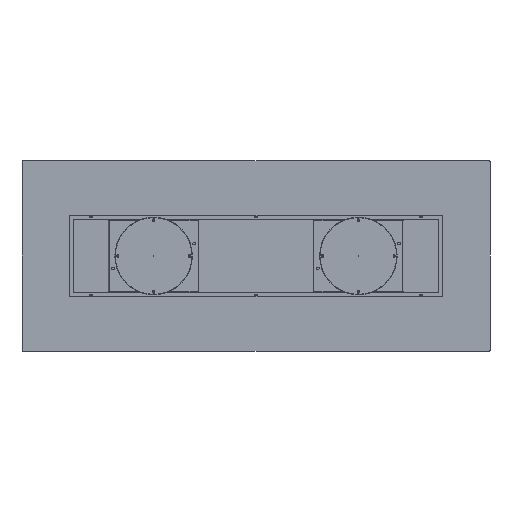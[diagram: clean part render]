
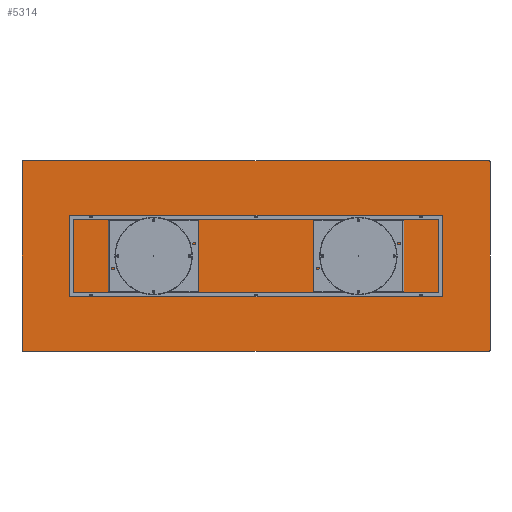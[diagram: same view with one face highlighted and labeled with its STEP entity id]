
A CAD part, front view. The second image highlights one B-rep face of the part: STEP entity #5314.
In plain terms, the highlighted planar face has unit normal (0, -1, 0).
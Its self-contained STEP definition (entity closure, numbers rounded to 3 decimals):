
#19 = CIRCLE ( 'NONE', #8386, 5. ) ;
#112 = CARTESIAN_POINT ( 'NONE',  ( 1600., 0., -650. ) ) ;
#193 = DIRECTION ( 'NONE',  ( 0., -1., 0. ) ) ;
#340 = CARTESIAN_POINT ( 'NONE',  ( 1595., 0., -645. ) ) ;
#605 = LINE ( 'NONE', #12054, #3427 ) ;
#1014 = CARTESIAN_POINT ( 'NONE',  ( -1595., 0., -645. ) ) ;
#1171 = FACE_OUTER_BOUND ( 'NONE', #8142, .T. ) ;
#1242 = DIRECTION ( 'NONE',  ( 0., 0., 1. ) ) ;
#1369 = VECTOR ( 'NONE', #8531, 1000. ) ;
#1533 = VERTEX_POINT ( 'NONE', #2548 ) ;
#1594 = ORIENTED_EDGE ( 'NONE', *, *, #5032, .F. ) ;
#1791 = ORIENTED_EDGE ( 'NONE', *, *, #13381, .F. ) ;
#2022 = AXIS2_PLACEMENT_3D ( 'NONE', #8572, #12759, #3325 ) ;
#2375 = CARTESIAN_POINT ( 'NONE',  ( -1600., 0., 650. ) ) ;
#2510 = DIRECTION ( 'NONE',  ( 1., 0., 0. ) ) ;
#2548 = CARTESIAN_POINT ( 'NONE',  ( 1600., 0., 645. ) ) ;
#2654 = CARTESIAN_POINT ( 'NONE',  ( -1600., 0., -645. ) ) ;
#2995 = DIRECTION ( 'NONE',  ( 0., 0., 1. ) ) ;
#3217 = VERTEX_POINT ( 'NONE', #8541 ) ;
#3252 = PLANE ( 'NONE',  #4830 ) ;
#3325 = DIRECTION ( 'NONE',  ( 0., 0., 1. ) ) ;
#3427 = VECTOR ( 'NONE', #5013, 1000. ) ;
#3534 = CARTESIAN_POINT ( 'NONE',  ( 1595., 0., 650. ) ) ;
#3807 = EDGE_CURVE ( 'NONE', #3217, #12684, #9839, .T. ) ;
#4146 = CARTESIAN_POINT ( 'NONE',  ( 1595., 0., -650. ) ) ;
#4570 = VERTEX_POINT ( 'NONE', #4146 ) ;
#4830 = AXIS2_PLACEMENT_3D ( 'NONE', #7456, #6224, #1242 ) ;
#4854 = CARTESIAN_POINT ( 'NONE',  ( 1600., 0., -645. ) ) ;
#5013 = DIRECTION ( 'NONE',  ( -1., 0., 0. ) ) ;
#5032 = EDGE_CURVE ( 'NONE', #11584, #5899, #10582, .T. ) ;
#5206 = AXIS2_PLACEMENT_3D ( 'NONE', #340, #6685, #5418 ) ;
#5314 = ADVANCED_FACE ( 'NONE', ( #1171 ), #3252, .F. ) ;
#5418 = DIRECTION ( 'NONE',  ( 0., 0., 1. ) ) ;
#5793 = DIRECTION ( 'NONE',  ( 0., -1., 0. ) ) ;
#5822 = CIRCLE ( 'NONE', #5206, 5. ) ;
#5899 = VERTEX_POINT ( 'NONE', #13032 ) ;
#5991 = CARTESIAN_POINT ( 'NONE',  ( -1595., 0., 645. ) ) ;
#6017 = ORIENTED_EDGE ( 'NONE', *, *, #8251, .F. ) ;
#6224 = DIRECTION ( 'NONE',  ( 0., 1., 0. ) ) ;
#6455 = LINE ( 'NONE', #112, #1369 ) ;
#6465 = EDGE_CURVE ( 'NONE', #3217, #5899, #7372, .T. ) ;
#6580 = VERTEX_POINT ( 'NONE', #8900 ) ;
#6685 = DIRECTION ( 'NONE',  ( 0., -1., 0. ) ) ;
#6976 = VECTOR ( 'NONE', #2510, 1000. ) ;
#7372 = CIRCLE ( 'NONE', #9137, 5. ) ;
#7456 = CARTESIAN_POINT ( 'NONE',  ( 0., 0., 0. ) ) ;
#8142 = EDGE_LOOP ( 'NONE', ( #1791, #10105, #9002, #10019, #1594, #10778, #6017, #12380 ) ) ;
#8251 = EDGE_CURVE ( 'NONE', #4570, #6580, #605, .T. ) ;
#8386 = AXIS2_PLACEMENT_3D ( 'NONE', #1014, #193, #8542 ) ;
#8531 = DIRECTION ( 'NONE',  ( 0., 0., -1. ) ) ;
#8541 = CARTESIAN_POINT ( 'NONE',  ( -1595., 0., 650. ) ) ;
#8542 = DIRECTION ( 'NONE',  ( 0., 0., 1. ) ) ;
#8572 = CARTESIAN_POINT ( 'NONE',  ( 1595., 0., 645. ) ) ;
#8756 = VECTOR ( 'NONE', #2995, 1000. ) ;
#8900 = CARTESIAN_POINT ( 'NONE',  ( -1595., 0., -650. ) ) ;
#9002 = ORIENTED_EDGE ( 'NONE', *, *, #3807, .F. ) ;
#9030 = DIRECTION ( 'NONE',  ( 0., 0., 1. ) ) ;
#9137 = AXIS2_PLACEMENT_3D ( 'NONE', #5991, #5793, #9030 ) ;
#9488 = CARTESIAN_POINT ( 'NONE',  ( -1600., 0., -650. ) ) ;
#9518 = EDGE_CURVE ( 'NONE', #4570, #12296, #5822, .T. ) ;
#9839 = LINE ( 'NONE', #2375, #6976 ) ;
#10019 = ORIENTED_EDGE ( 'NONE', *, *, #6465, .T. ) ;
#10031 = EDGE_CURVE ( 'NONE', #11584, #6580, #19, .T. ) ;
#10105 = ORIENTED_EDGE ( 'NONE', *, *, #12679, .T. ) ;
#10582 = LINE ( 'NONE', #9488, #8756 ) ;
#10778 = ORIENTED_EDGE ( 'NONE', *, *, #10031, .T. ) ;
#11584 = VERTEX_POINT ( 'NONE', #2654 ) ;
#12054 = CARTESIAN_POINT ( 'NONE',  ( -1600., 0., -650. ) ) ;
#12296 = VERTEX_POINT ( 'NONE', #4854 ) ;
#12380 = ORIENTED_EDGE ( 'NONE', *, *, #9518, .T. ) ;
#12679 = EDGE_CURVE ( 'NONE', #1533, #12684, #12814, .T. ) ;
#12684 = VERTEX_POINT ( 'NONE', #3534 ) ;
#12759 = DIRECTION ( 'NONE',  ( 0., -1., 0. ) ) ;
#12814 = CIRCLE ( 'NONE', #2022, 5. ) ;
#13032 = CARTESIAN_POINT ( 'NONE',  ( -1600., 0., 645. ) ) ;
#13381 = EDGE_CURVE ( 'NONE', #1533, #12296, #6455, .T. ) ;
